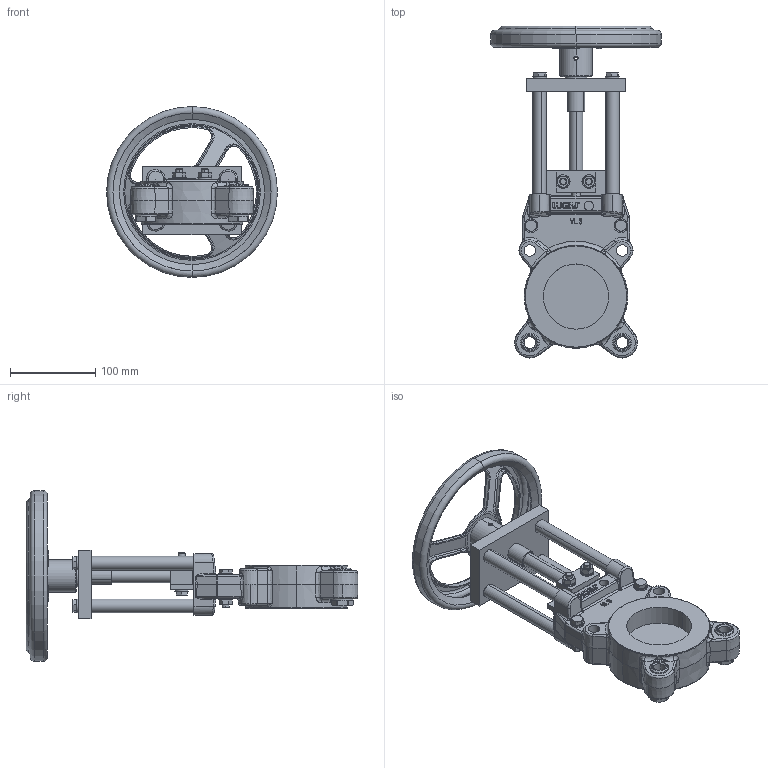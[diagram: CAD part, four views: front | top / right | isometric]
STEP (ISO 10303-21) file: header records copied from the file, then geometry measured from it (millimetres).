
FILE_DESCRIPTION (( 'STEP AP214' ), '1' );
FILE_NAME ('VLA DN 0080.STEP', '2022-09-20T06:56:13', ( '' ), ( '' ), 'SwSTEP 2.0', 'SolidWorks 2021', '' );
FILE_SCHEMA (( 'AUTOMOTIVE_DESIGN' ));
Length unit declared in the file: millimetre
Products named in the file (1): VLA DN 0080
Bounding box: 200 x 388.37 x 200 mm (x, y, z)
Volume: 1165581.6 mm3; surface area: 277044.8 mm2
Topology: 1 solids, 22 shells, 1414 faces, 3364 edges, 2019 vertices
Faces by surface type: plane 449, cylinder 404, cone 233, bspline 230, torus 94, sphere 4
Entity records: 65768 total; most frequent: CARTESIAN_POINT 19152, ORIENTED_EDGE 6644, DIRECTION 6303, EDGE_CURVE 3322, AXIS2_PLACEMENT_3D 2523, VERTEX_POINT 2019, EDGE_LOOP 1535, UNCERTAINTY_MEASURE_WITH_UNIT 1417
